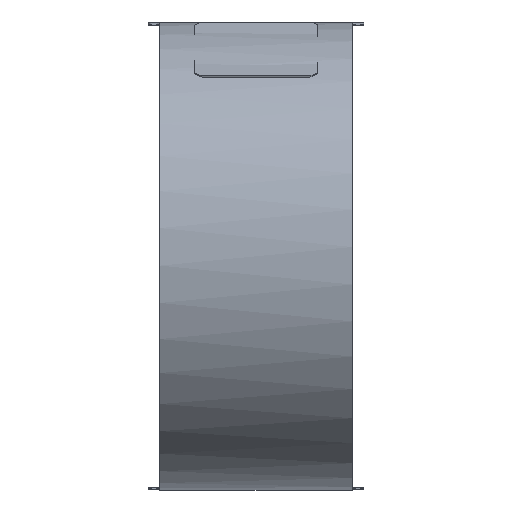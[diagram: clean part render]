
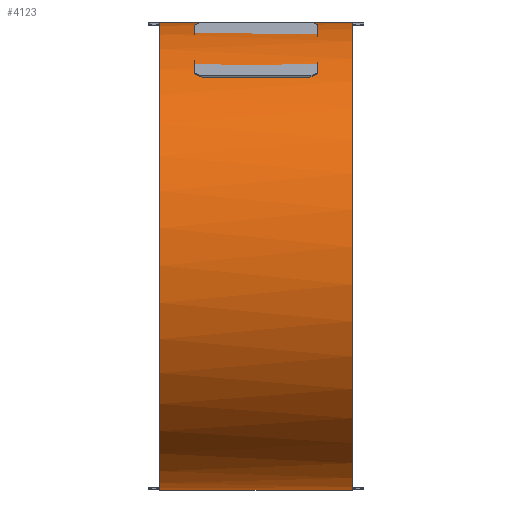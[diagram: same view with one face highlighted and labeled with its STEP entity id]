
A CAD part, left-side view. The second image highlights one B-rep face of the part: STEP entity #4123.
In plain terms, the highlighted cylindrical face has radius 15.195 mm (diameter 30.39 mm), a partial arc.
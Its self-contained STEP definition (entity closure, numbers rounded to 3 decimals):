
#4099 = VERTEX_POINT('',#4100);
#4100 = CARTESIAN_POINT('',(74.512,84.7,
    0.05));
#4106 = EDGE_CURVE('',#4107,#4099,#4109,.T.);
#4107 = VERTEX_POINT('',#4108);
#4108 = CARTESIAN_POINT('',(74.512,72.2,
    0.05));
#4109 = B_SPLINE_CURVE_WITH_KNOTS('',1,(#4110,#4111),.UNSPECIFIED.,.F.,
  .F.,(2,2),(0.,12.5),.PIECEWISE_BEZIER_KNOTS.);
#4110 = CARTESIAN_POINT('',(74.512,72.2,
    0.05));
#4111 = CARTESIAN_POINT('',(74.512,84.7,
    0.05));
#4123 = ADVANCED_FACE('',(#4124),#4160,.T.);
#4124 = FACE_BOUND('',#4125,.F.);
#4125 = EDGE_LOOP('',(#4126,#4127,#4141,#4148));
#4126 = ORIENTED_EDGE('',*,*,#4106,.F.);
#4127 = ORIENTED_EDGE('',*,*,#4128,.F.);
#4128 = EDGE_CURVE('',#4129,#4107,#4131,.T.);
#4129 = VERTEX_POINT('',#4130);
#4130 = CARTESIAN_POINT('',(74.512,72.2,
    -30.34));
#4131 = B_SPLINE_CURVE_WITH_KNOTS('',8,(#4132,#4133,#4134,#4135,#4136,
    #4137,#4138,#4139,#4140),.UNSPECIFIED.,.F.,.F.,(9,9),(0.,
    3.142),.PIECEWISE_BEZIER_KNOTS.);
#4132 = CARTESIAN_POINT('',(74.512,72.2,
    -30.34));
#4133 = CARTESIAN_POINT('',(68.545,72.2,
    -30.34));
#4134 = CARTESIAN_POINT('',(62.578,72.2,
    -27.661));
#4135 = CARTESIAN_POINT('',(58.013,72.2,
    -22.309));
#4136 = CARTESIAN_POINT('',(56.251,72.2,
    -15.145));
#4137 = CARTESIAN_POINT('',(58.013,72.2,
    -7.981));
#4138 = CARTESIAN_POINT('',(62.578,72.2,
    -2.629));
#4139 = CARTESIAN_POINT('',(68.545,72.2,
    0.05));
#4140 = CARTESIAN_POINT('',(74.512,72.2,
    0.05));
#4141 = ORIENTED_EDGE('',*,*,#4142,.F.);
#4142 = EDGE_CURVE('',#4143,#4129,#4145,.T.);
#4143 = VERTEX_POINT('',#4144);
#4144 = CARTESIAN_POINT('',(74.512,84.7,
    -30.34));
#4145 = B_SPLINE_CURVE_WITH_KNOTS('',1,(#4146,#4147),.UNSPECIFIED.,.F.,
  .F.,(2,2),(0.,12.5),.PIECEWISE_BEZIER_KNOTS.);
#4146 = CARTESIAN_POINT('',(74.512,84.7,
    -30.34));
#4147 = CARTESIAN_POINT('',(74.512,72.2,
    -30.34));
#4148 = ORIENTED_EDGE('',*,*,#4149,.F.);
#4149 = EDGE_CURVE('',#4099,#4143,#4150,.T.);
#4150 = B_SPLINE_CURVE_WITH_KNOTS('',8,(#4151,#4152,#4153,#4154,#4155,
    #4156,#4157,#4158,#4159),.UNSPECIFIED.,.F.,.F.,(9,9),(0.,
    3.142),.PIECEWISE_BEZIER_KNOTS.);
#4151 = CARTESIAN_POINT('',(74.512,84.7,
    0.05));
#4152 = CARTESIAN_POINT('',(68.545,84.7,
    0.05));
#4153 = CARTESIAN_POINT('',(62.578,84.7,
    -2.629));
#4154 = CARTESIAN_POINT('',(58.013,84.7,
    -7.981));
#4155 = CARTESIAN_POINT('',(56.251,84.7,
    -15.145));
#4156 = CARTESIAN_POINT('',(58.013,84.7,
    -22.309));
#4157 = CARTESIAN_POINT('',(62.578,84.7,
    -27.661));
#4158 = CARTESIAN_POINT('',(68.545,84.7,
    -30.34));
#4159 = CARTESIAN_POINT('',(74.512,84.7,
    -30.34));
#4160 = CYLINDRICAL_SURFACE('',#4161,15.195);
#4161 = AXIS2_PLACEMENT_3D('',#4162,#4163,#4164);
#4162 = CARTESIAN_POINT('',(74.512,86.45,
    -15.145));
#4163 = DIRECTION('',(0.,-1.,0.));
#4164 = DIRECTION('',(0.,0.,1.));
